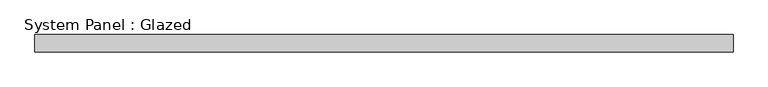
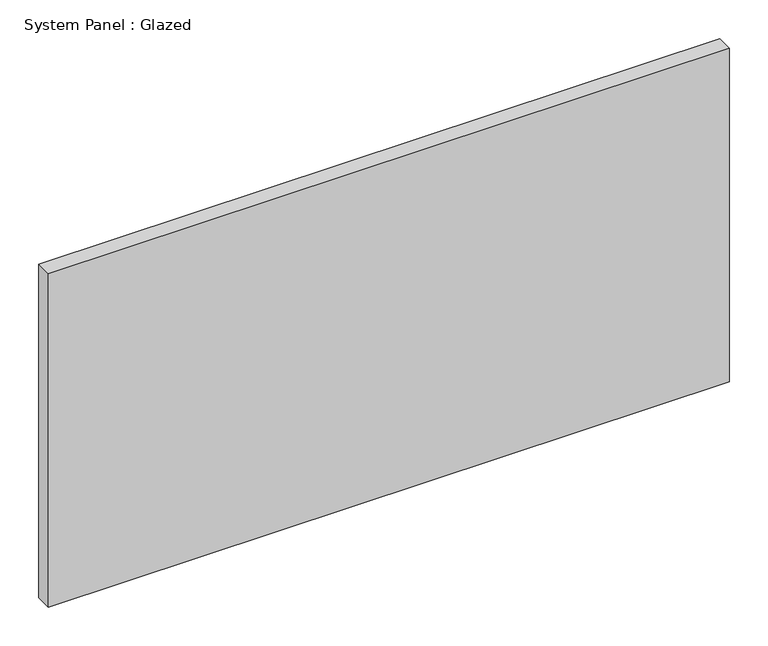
"""IFC4 building model written with IfcOpenShell, lengths in millimetres: plate geometry, System Panel : Glazed."""

import ifcopenshell
import ifcopenshell.guid

model = None  # the IFC model being written
_history = None  # IfcOwnerHistory: only IFC2X3 demands one
_inside = {}  # id of a spatial element -> (the spatial element, [elements in it])
_under = {}  # id of a project, library or spatial element -> (it, [spatial elements below it])
_declared = {}  # id of a project -> (the project, [libraries it declares])
_typed = {}  # id of a type object -> (the type object, [elements of that type])
_made_of = {}  # id of a material, layer set ... -> (it, [elements and type objects made of it])


def new_model(schema):
    """Start an empty IFC model of exactly this schema.

    Asked for "IFC4X3", IfcOpenShell would pick the latest addendum, in which some entities
    have other attributes; the version numbers below select the first issue.
    IFC2X3 requires an IfcOwnerHistory on every rooted entity: one is made here for all.
    """
    global model, _history
    if schema == "IFC4X3":
        model = ifcopenshell.file(schema_version=(4, 3, 0, 0))
    else:
        model = ifcopenshell.file(schema=schema)
    _inside.clear()
    _under.clear()
    _declared.clear()
    _typed.clear()
    _made_of.clear()
    _history = None
    if model.schema == "IFC2X3":
        org = make("IfcOrganization", Name="unknown")
        user = make(
            "IfcPersonAndOrganization",
            ThePerson=make("IfcPerson", FamilyName="unknown"),
            TheOrganization=org,
        )
        app = make(
            "IfcApplication",
            ApplicationDeveloper=org,
            Version="unknown",
            ApplicationFullName="unknown",
            ApplicationIdentifier="unknown",
        )
        _history = make(
            "IfcOwnerHistory",
            OwningUser=user,
            OwningApplication=app,
            ChangeAction="ADDED",
            CreationDate=0,
        )
    return model


def make(cls, **values):
    """One entity of the class cls with the attributes given. An attribute that is None is left unset."""
    return model.create_entity(
        cls, **{name: value for name, value in values.items() if value is not None}
    )


def rooted(cls, **values):
    """An entity with a GlobalId (a new one), such as an element, a storey or a relation."""
    return make(cls, GlobalId=ifcopenshell.guid.new(), OwnerHistory=_history, **values)


def si_unit(unit_type, name, prefix=None):
    """IfcSIUnit, for example si_unit("LENGTHUNIT", "METRE", prefix="MILLI")."""
    return make("IfcSIUnit", UnitType=unit_type, Prefix=prefix, Name=name)


def assignment(units):
    """IfcUnitAssignment: the units of a project."""
    return None if units is None else make("IfcUnitAssignment", Units=units)


def point(xyz):
    """IfcCartesianPoint."""
    return None if xyz is None else make("IfcCartesianPoint", Coordinates=xyz)


def direction(xyz):
    """IfcDirection."""
    return None if xyz is None else make("IfcDirection", DirectionRatios=xyz)


def frame(location, z_axis=None, x_axis=None):
    """IfcAxis2Placement3D, a coordinate frame: its origin and axes. An axis left out is left unset."""
    return make(
        "IfcAxis2Placement3D",
        Location=point(location),
        Axis=direction(z_axis),
        RefDirection=direction(x_axis),
    )


def origin():
    """The frame at (0, 0, 0) with its axes left unset."""
    return frame((0.0, 0.0, 0.0))


def origin_with_axes():
    """The frame at (0, 0, 0) with the z axis (0, 0, 1) and the x axis (1, 0, 0) written out."""
    return frame((0.0, 0.0, 0.0), z_axis=(0.0, 0.0, 1.0), x_axis=(1.0, 0.0, 0.0))


def place(relative_to, where):
    """IfcLocalPlacement: puts the frame where relative to a parent placement (None: the world)."""
    return make(
        "IfcLocalPlacement", PlacementRelTo=relative_to, RelativePlacement=where
    )


def context(
    kind, dimensions, precision=None, world=None, true_north=None, identifier=None
):
    """IfcGeometricRepresentationContext, for example the 3D "Model" context."""
    return make(
        "IfcGeometricRepresentationContext",
        ContextIdentifier=identifier,
        ContextType=kind,
        CoordinateSpaceDimension=dimensions,
        Precision=precision,
        WorldCoordinateSystem=world,
        TrueNorth=true_north,
    )


def project(units=None, contexts=None):
    """IfcProject with its units and contexts."""
    return rooted(
        "IfcProject",
        Name="project",
        RepresentationContexts=contexts,
        UnitsInContext=assignment(units),
    )


def spatial(cls, under=None, at=None, **own):
    """A site, building, storey or space (cls), placed at a placement, below another one or the project."""
    s = rooted(cls, ObjectPlacement=at, **own)
    if under is not None:
        _under.setdefault(under.id(), (under, []))[1].append(s)
    return s


def polyline(points):
    """IfcPolyline through the points."""
    return make("IfcPolyline", Points=[point(p) for p in points])


def outline(outer, holes=None, kind="AREA"):
    """IfcArbitraryClosedProfileDef: a profile drawn as a closed curve; with holes, ...WithVoids."""
    if holes is None:
        return make("IfcArbitraryClosedProfileDef", ProfileType=kind, OuterCurve=outer)
    return make(
        "IfcArbitraryProfileDefWithVoids",
        ProfileType=kind,
        OuterCurve=outer,
        InnerCurves=holes,
    )


def extrude(swept, where, along, depth):
    """IfcExtrudedAreaSolid: the profile swept, set in the frame where, extruded along a direction by depth."""
    return make(
        "IfcExtrudedAreaSolid",
        SweptArea=swept,
        Position=where,
        ExtrudedDirection=direction(along),
        Depth=depth,
    )


def shape(context_of_items, identifier, shape_type, items):
    """IfcShapeRepresentation: the items that make up one representation, for example the "Body"."""
    return make(
        "IfcShapeRepresentation",
        ContextOfItems=context_of_items,
        RepresentationIdentifier=identifier,
        RepresentationType=shape_type,
        Items=items,
    )


def source(mapping_origin, context_of_items, identifier, shape_type, items):
    """IfcRepresentationMap: a shape defined once, which mapped items show again and again."""
    return make(
        "IfcRepresentationMap",
        MappingOrigin=mapping_origin,
        MappedRepresentation=shape(context_of_items, identifier, shape_type, items),
    )


def transform(
    local_origin,
    x_axis=None,
    y_axis=None,
    z_axis=None,
    scale=None,
    scale2=None,
    scale3=None,
    uniform=True,
):
    """IfcCartesianTransformationOperator3D, or its non-uniform kind. x_axis, y_axis, z_axis: its Axis1, 2, 3."""
    if uniform:
        return make(
            "IfcCartesianTransformationOperator3D",
            Axis1=direction(x_axis),
            Axis2=direction(y_axis),
            LocalOrigin=point(local_origin),
            Scale=scale,
            Axis3=direction(z_axis),
        )
    return make(
        "IfcCartesianTransformationOperator3DnonUniform",
        Axis1=direction(x_axis),
        Axis2=direction(y_axis),
        LocalOrigin=point(local_origin),
        Scale=scale,
        Axis3=direction(z_axis),
        Scale2=scale2,
        Scale3=scale3,
    )


def mapped(mapping_source, mapping_target):
    """IfcMappedItem: shows the shape of a source again, moved by a transform."""
    return make(
        "IfcMappedItem", MappingSource=mapping_source, MappingTarget=mapping_target
    )


def made_of(thing, what):
    """Note that an element or type object is made of a material, layer set ...; save() writes the relation."""
    if what is not None:
        _made_of.setdefault(what.id(), (what, []))[1].append(thing)
    return thing


def element(
    cls,
    number,
    at=None,
    inside=None,
    cuts=None,
    type_object=None,
    material=None,
    context=None,
    identifier="Body",
    shape_type=None,
    held_by="IfcProductDefinitionShape",
    body=None,
    shapes=None,
    **own,
):
    """One element of the class cls, such as IfcWall. Its Tag is "e" and its number.

    at: its placement. inside: the storey or other place that contains it. cuts: it is an
    opening in that element (IfcRelVoidsElement). A single representation is given by context,
    identifier, shape_type and body (its items); several are given by shapes. held_by: the class
    of the entity that holds the representations. save() writes the other relations.
    """
    e = rooted(cls, Tag="e%d" % number, ObjectPlacement=at, **own)
    if body is not None:
        shapes = [shape(context, identifier, shape_type, body)]
    if shapes is not None:
        e.Representation = make(held_by, Representations=shapes)
    if inside is not None:
        _inside.setdefault(inside.id(), (inside, []))[1].append(e)
    if cuts is not None:
        rooted(
            "IfcRelVoidsElement", RelatingBuildingElement=cuts, RelatedOpeningElement=e
        )
    if type_object is not None:
        _typed.setdefault(type_object.id(), (type_object, []))[1].append(e)
    return made_of(e, material)


def aggregate(whole, parts):
    """IfcRelAggregates: a whole, such as a stair, and the parts it consists of."""
    return rooted("IfcRelAggregates", RelatingObject=whole, RelatedObjects=parts)


def save(model, path):
    """Write the relations noted so far, then the file.

    IfcRelAggregates (storeys below a building ...), IfcRelContainedInSpatialStructure (elements
    in a storey), IfcRelDefinesByType, IfcRelAssociatesMaterial and IfcRelDeclares: one each for
    every whole, place, type object, material and project.
    """
    for whole, parts in _under.values():
        aggregate(whole, parts)
    for where, things in _inside.values():
        rooted(
            "IfcRelContainedInSpatialStructure",
            RelatedElements=things,
            RelatingStructure=where,
        )
    for kind, things in _typed.values():
        rooted("IfcRelDefinesByType", RelatedObjects=things, RelatingType=kind)
    for what, things in _made_of.values():
        rooted("IfcRelAssociatesMaterial", RelatedObjects=things, RelatingMaterial=what)
    for by, libraries in _declared.values():
        rooted("IfcRelDeclares", RelatingContext=by, RelatedDefinitions=libraries)
    model.write(path)


def system_panel_glazed_414e65e8(model_context):
    return source(origin(), model_context, "Body", "SweptSolid", [
        extrude(outline(polyline([(508.3333332, -49.5), (-508.3333332, -49.5), (-508.3333332, -24.5), (508.3333332, -24.5), (508.3333332, -49.5)])), origin_with_axes(), (0.0, 0.0, 1.0), 526.145744),
    ])


if __name__ == "__main__":
    model = new_model("IFC4")
    model_context = context("Model", 3, world=origin())
    ifc_project = project(units=[si_unit("LENGTHUNIT", "METRE", prefix="MILLI")], contexts=[model_context])
    site = spatial("IfcSite", under=ifc_project)
    building = spatial("IfcBuilding", under=site)
    placement = place(None, origin())
    system_panel_glazed_shape = system_panel_glazed_414e65e8(model_context)
    element("IfcPlate", 1, ObjectType="System Panel : Glazed", at=placement, inside=building, context=model_context, shape_type="MappedRepresentation", body=[
        mapped(system_panel_glazed_shape, transform((0.0, 0.0, 0.0), x_axis=(1.0, 0.0, 0.0), y_axis=(0.0, 1.0, 0.0), z_axis=(0.0, 0.0, 1.0))),
    ])
    save(model, "model.ifc")
